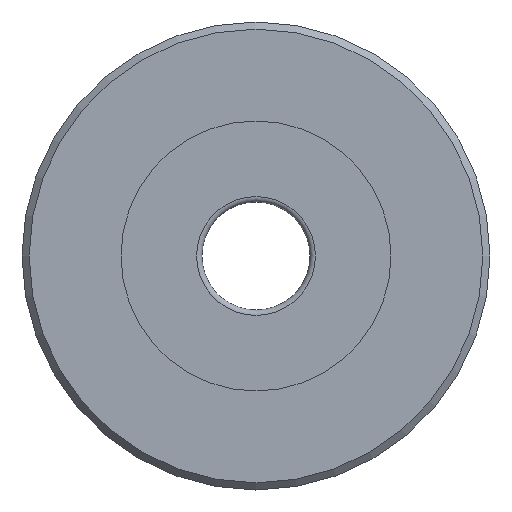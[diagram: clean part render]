
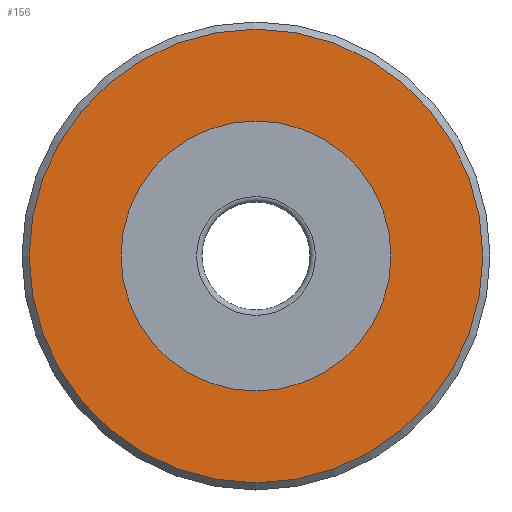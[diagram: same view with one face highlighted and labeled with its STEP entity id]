
A CAD part, left-side view. The second image highlights one B-rep face of the part: STEP entity #156.
In plain terms, the highlighted planar face has unit normal (-1, 0, 0).
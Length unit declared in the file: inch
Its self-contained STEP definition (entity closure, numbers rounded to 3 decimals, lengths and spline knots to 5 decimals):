
#129=CARTESIAN_POINT('',(11.,22.3,0.));
#130=VERTEX_POINT('',#129);
#131=CARTESIAN_POINT('',(11.,16.,0.));
#132=DIRECTION('',(-1.,0.,0.));
#133=DIRECTION('',(0.,1.,0.));
#134=AXIS2_PLACEMENT_3D('',#131,#132,#133);
#135=CIRCLE('',#134,6.3);
#136=EDGE_CURVE('',#130,#130,#135,.T.);
#137=ORIENTED_EDGE('',*,*,#136,.T.);
#138=EDGE_LOOP('',(#137));
#139=FACE_OUTER_BOUND('',#138,.T.);
#140=CARTESIAN_POINT('',(11.,19.75,0.));
#141=VERTEX_POINT('',#140);
#142=CARTESIAN_POINT('',(11.,16.,0.));
#143=DIRECTION('',(-1.,0.,0.));
#144=DIRECTION('',(0.,1.,0.));
#145=AXIS2_PLACEMENT_3D('',#142,#143,#144);
#146=CIRCLE('',#145,3.75);
#147=EDGE_CURVE('',#141,#141,#146,.T.);
#148=ORIENTED_EDGE('',*,*,#147,.F.);
#149=EDGE_LOOP('',(#148));
#150=FACE_BOUND('',#149,.T.);
#151=CARTESIAN_POINT('',(11.,21.025,0.));
#152=DIRECTION('',(-1.,0.,0.));
#153=DIRECTION('',(0.,1.,0.));
#154=AXIS2_PLACEMENT_3D('',#151,#152,#153);
#155=PLANE('',#154);
#156=ADVANCED_FACE('',(#139,#150),#155,.T.);
